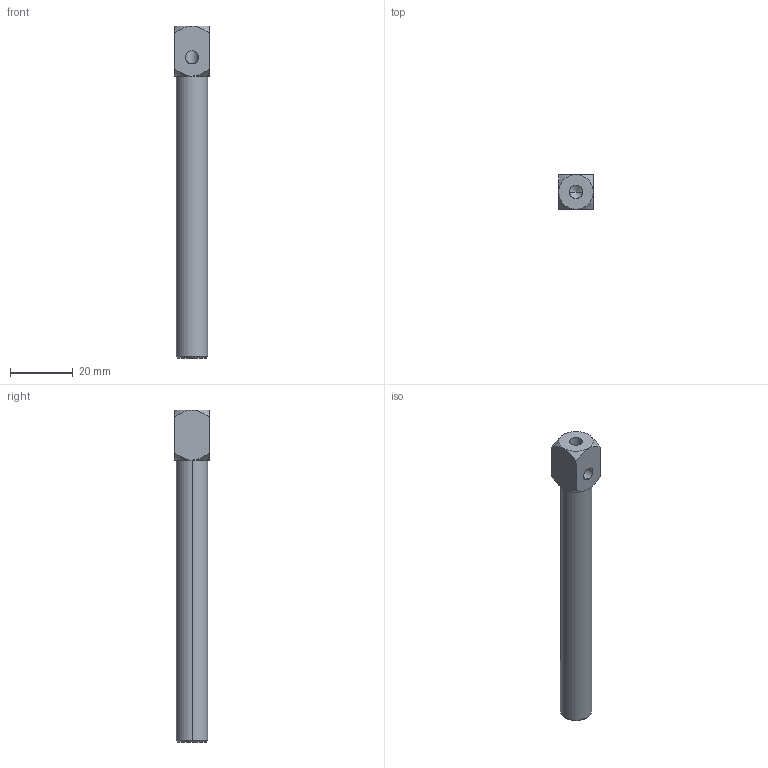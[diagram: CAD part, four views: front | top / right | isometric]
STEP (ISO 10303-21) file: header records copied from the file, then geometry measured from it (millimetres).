
FILE_DESCRIPTION (( 'STEP AP214' ), '1' );
FILE_NAME ('SVE-M51090.STEP', '2023-01-29T05:24:04', ( 'Windows User' ), ( 'P R C' ), 'SwSTEP 2.0', 'SolidWorks 2019', '' );
FILE_SCHEMA (( 'AUTOMOTIVE_DESIGN' ));
Length unit declared in the file: millimetre
Products named in the file (1): SVE-M51090
Bounding box: 11 x 11 x 106 mm (x, y, z)
Volume: 6341.2 mm3; surface area: 5486.1 mm2
Topology: 1 solids, 1 shells, 32 faces, 72 edges, 40 vertices
Faces by surface type: cone 16, cylinder 9, plane 7
Entity records: 1032 total; most frequent: CARTESIAN_POINT 329, DIRECTION 140, ORIENTED_EDGE 136, EDGE_CURVE 68, AXIS2_PLACEMENT_3D 59, VERTEX_POINT 40, EDGE_LOOP 36, FACE_OUTER_BOUND 32
